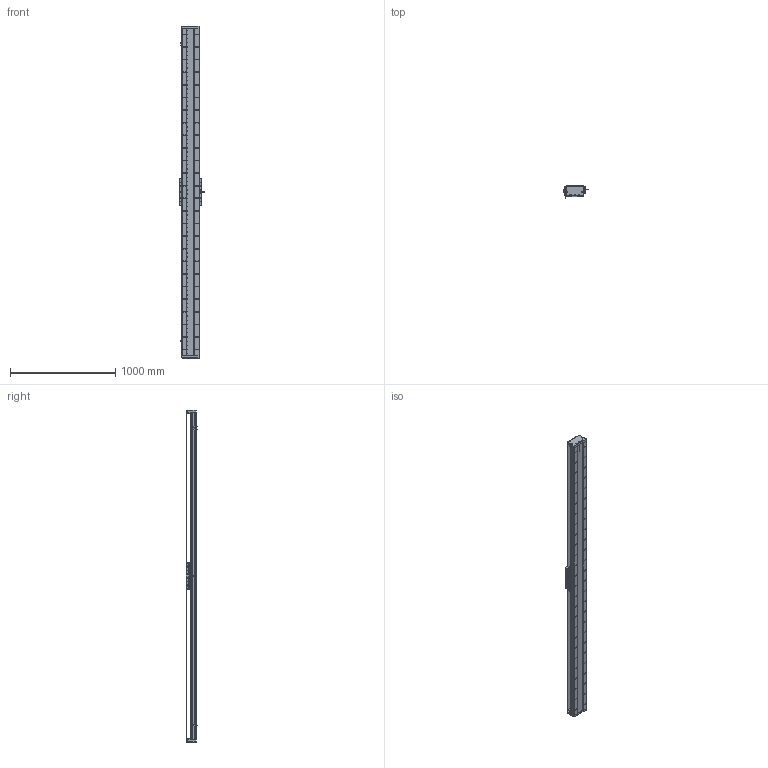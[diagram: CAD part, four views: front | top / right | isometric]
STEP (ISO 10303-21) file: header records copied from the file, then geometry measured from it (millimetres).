
FILE_DESCRIPTION (( 'STEP AP203' ), '1' );
FILE_NAME ('DA-C165-C3-T2820-C010-0.2 直线电机.STEP', '2023-06-13T08:57:16', ( '微软用户' ), ( '微软中国' ), 'SwSTEP 2.0', 'SolidWorks 2019', '' );
FILE_SCHEMA (( 'CONFIG_CONTROL_DESIGN' ));
Length unit declared in the file: millimetre
Products named in the file (18): 葩璃 CKM03-W075-C1C2-TP-3.0^DA-C165-C3-T-C010-0.2-N 眻盄萇儂; DA-C165-C3-T2820-C010-0.2 眻盄萇儂; 复件 CU165钢带组件^DA-C165-C3-T-C010-0.2-N 直线电机; 葩璃 DA95-GT-T-00^IU-CU165-L 菁釱絳寢_T; 复件 CU165 底座^IU-CU165-L 底座导轨_L3120; 复件 DA95-HXJ-00 缓冲橡胶^DA-C165-C3-T-C010-0.2-N 直线电机; 复件 六角薄螺母 M3^DA-C165-C3-T-C010-0.2-N 直线电机_GB_FASTENER_NUT_STNAB M3-C; 葩璃 CKM01-W075-TRL^DA-C165-C3-T-C010-0.2-N 眻盄萇儂; 复件 XD-U-02L 磁栅尺^DA-C165-C3-T-C010-0.2-N 直线电机_T; 复件 DA165-GDLK-00 钢带拉块^复件 CU165钢带组件_DA-C165-C3-T-C010-0.2-N 直线电机; 葩璃 PM-T45^DA-C165-C3-T-C010-0.2-N 眻盄萇儂; 复件 DA165-GD-1860-002-00 钢带盖板^复件 CU165钢带组件_DA-C165-C3-T-C010-0.2-N 直线电机; 复件 DA165-GYP-00 光电感应片^DA-C165-C3-T-C010-0.2-N 直线电机; 复件 DA165-GD-DG-H-00 端盖^复件 CU165钢带组件_DA-C165-C3-T-C010-0.2-N 直线电机; 复件 DMA-010-0.2 读数头^DA-C165-C3-T-C010-0.2-N 直线电机; IU-CU165-L 菁釱絳寢; 珨极趙賑雄怢啣C3-wf; 复件 DA165-GDYK-00 钢带压块^复件 CU165钢带组件_DA-C165-C3-T-C010-0.2-N 直线电机
Assembly tree (35 placements, depth 3):
  DA-C165-C3-T2820-C010-0.2 眻盄萇儂
    IU-CU165-L 菁釱絳寢
      复件 CU165 底座^IU-CU165-L 底座导轨_L3120
      葩璃 DA95-GT-T-00^IU-CU165-L 菁釱絳寢_T  x4
    复件 XD-U-02L 磁栅尺^DA-C165-C3-T-C010-0.2-N 直线电机_T
    葩璃 PM-T45^DA-C165-C3-T-C010-0.2-N 眻盄萇儂  x3
    葩璃 CKM01-W075-TRL^DA-C165-C3-T-C010-0.2-N 眻盄萇儂
    复件 CU165钢带组件^DA-C165-C3-T-C010-0.2-N 直线电机
      复件 DA165-GD-DG-H-00 端盖^复件 CU165钢带组件_DA-C165-C3-T-C010-0.2-N 直线电机  x2
      复件 DA165-GDYK-00 钢带压块^复件 CU165钢带组件_DA-C165-C3-T-C010-0.2-N 直线电机  x2
      复件 DA165-GD-1860-002-00 钢带盖板^复件 CU165钢带组件_DA-C165-C3-T-C010-0.2-N 直线电机
      复件 DA165-GDLK-00 钢带拉块^复件 CU165钢带组件_DA-C165-C3-T-C010-0.2-N 直线电机  x2
    复件 DA95-HXJ-00 缓冲橡胶^DA-C165-C3-T-C010-0.2-N 直线电机  x4
    复件 DA165-GYP-00 光电感应片^DA-C165-C3-T-C010-0.2-N 直线电机
    复件 DMA-010-0.2 读数头^DA-C165-C3-T-C010-0.2-N 直线电机
    葩璃 CKM03-W075-C1C2-TP-3.0^DA-C165-C3-T-C010-0.2-N 眻盄萇儂
    复件 六角薄螺母 M3^DA-C165-C3-T-C010-0.2-N 直线电机_GB_FASTENER_NUT_STNAB M3-C  x8
    珨极趙賑雄怢啣C3-wf
Bounding box: 233 x 111.45 x 3160 mm (x, y, z)
Volume: 17693000.3 mm3; surface area: 5305477.4 mm2
Topology: 72 solids, 122 shells, 4618 faces, 13449 edges, 8540 vertices
Faces by surface type: cylinder 2760, plane 1232, cone 576, torus 46, sphere 4
Entity records: 156649 total; most frequent: CARTESIAN_POINT 43427, ORIENTED_EDGE 23650, DIRECTION 22847, EDGE_CURVE 11825, AXIS2_PLACEMENT_3D 8806, VERTEX_POINT 7728, EDGE_LOOP 5463, VECTOR 5235
